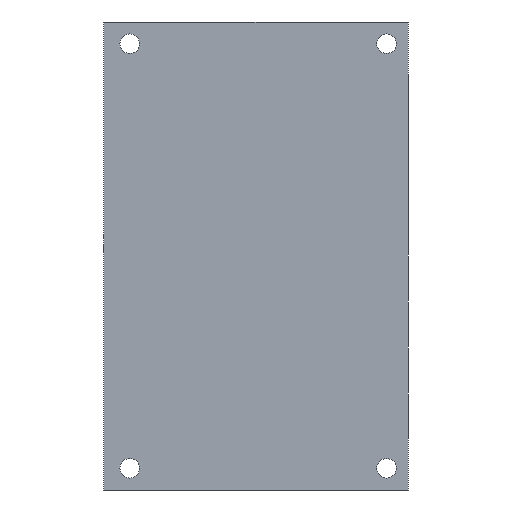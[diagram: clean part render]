
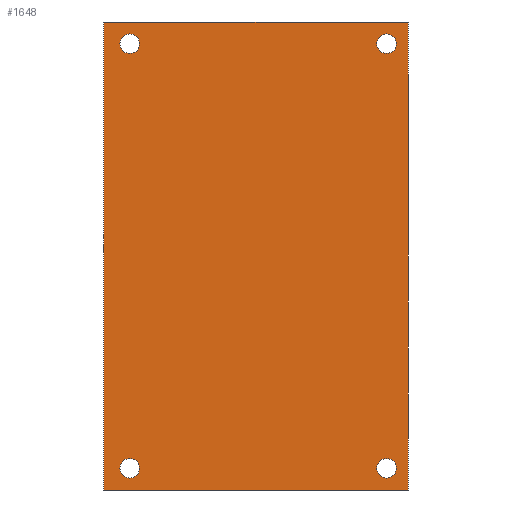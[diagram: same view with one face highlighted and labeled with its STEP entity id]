
A CAD part, front view. The second image highlights one B-rep face of the part: STEP entity #1648.
In plain terms, the highlighted planar face has unit normal (0, -1, 0) as drawn and (0, 0, 1) by its records, which use the part's own axes.
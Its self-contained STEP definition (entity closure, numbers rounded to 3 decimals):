
#1648=ADVANCED_FACE('',(#3500,#3501,#3502,#3503,#3504),#3505,.T.);
#3500=FACE_BOUND('',#5703,.T.);
#3501=FACE_BOUND('',#5704,.T.);
#3502=FACE_BOUND('',#5705,.T.);
#3503=FACE_BOUND('',#5706,.T.);
#3504=FACE_OUTER_BOUND('',#5707,.T.);
#3505=PLANE('',#5708);
#5703=EDGE_LOOP('',(#11939));
#5704=EDGE_LOOP('',(#11940));
#5705=EDGE_LOOP('',(#11941));
#5706=EDGE_LOOP('',(#11942));
#5707=EDGE_LOOP('',(#11943,#11944,#11945,#11946));
#5708=AXIS2_PLACEMENT_3D('',#11947,#11948,#11949);
#11939=ORIENTED_EDGE('',*,*,#15906,.F.);
#11940=ORIENTED_EDGE('',*,*,#15905,.T.);
#11941=ORIENTED_EDGE('',*,*,#15907,.F.);
#11942=ORIENTED_EDGE('',*,*,#15884,.T.);
#11943=ORIENTED_EDGE('',*,*,#15908,.T.);
#11944=ORIENTED_EDGE('',*,*,#15898,.T.);
#11945=ORIENTED_EDGE('',*,*,#15902,.T.);
#11946=ORIENTED_EDGE('',*,*,#15880,.T.);
#11947=CARTESIAN_POINT('',(-53.75,-35.0,25.889));
#11948=DIRECTION('',(0.0,0.0,1.0));
#11949=DIRECTION('',(1.0,0.0,0.0));
#15880=EDGE_CURVE('',#19515,#19513,#19516,.T.);
#15884=EDGE_CURVE('',#19522,#19522,#19523,.T.);
#15898=EDGE_CURVE('',#19549,#19547,#19550,.T.);
#15902=EDGE_CURVE('',#19547,#19515,#19556,.T.);
#15905=EDGE_CURVE('',#19561,#19561,#19562,.T.);
#15906=EDGE_CURVE('',#19563,#19563,#19564,.T.);
#15907=EDGE_CURVE('',#19565,#19565,#19566,.T.);
#15908=EDGE_CURVE('',#19513,#19549,#19567,.T.);
#19513=VERTEX_POINT('',#25370);
#19515=VERTEX_POINT('',#25373);
#19516=LINE('',#25374,#25375);
#19522=VERTEX_POINT('',#25382);
#19523=CIRCLE('',#25383,2.25);
#19547=VERTEX_POINT('',#25410);
#19549=VERTEX_POINT('',#25413);
#19550=LINE('',#25414,#25415);
#19556=LINE('',#25422,#25423);
#19561=VERTEX_POINT('',#25428);
#19562=CIRCLE('',#25429,2.25);
#19563=VERTEX_POINT('',#25430);
#19564=CIRCLE('',#25431,2.25);
#19565=VERTEX_POINT('',#25432);
#19566=CIRCLE('',#25433,2.25);
#19567=LINE('',#25434,#25435);
#25370=CARTESIAN_POINT('',(-53.75,35.0,25.889));
#25373=CARTESIAN_POINT('',(53.75,35.0,25.889));
#25374=CARTESIAN_POINT('',(53.75,35.0,25.889));
#25375=VECTOR('',#29561,1.0);
#25382=CARTESIAN_POINT('',(-51.0,-29.0,25.889));
#25383=AXIS2_PLACEMENT_3D('',#29569,#29570,#29571);
#25410=CARTESIAN_POINT('',(53.75,-35.0,25.889));
#25413=CARTESIAN_POINT('',(-53.75,-35.0,25.889));
#25414=CARTESIAN_POINT('',(-53.75,-35.0,25.889));
#25415=VECTOR('',#29603,1.0);
#25422=CARTESIAN_POINT('',(53.75,-35.0,25.889));
#25423=VECTOR('',#29611,1.0);
#25428=CARTESIAN_POINT('',(-51.0,30.0,25.889));
#25429=AXIS2_PLACEMENT_3D('',#29618,#29619,#29620);
#25430=CARTESIAN_POINT('',(51.0,30.0,25.889));
#25431=AXIS2_PLACEMENT_3D('',#29621,#29622,#29623);
#25432=CARTESIAN_POINT('',(51.0,-29.0,25.889));
#25433=AXIS2_PLACEMENT_3D('',#29624,#29625,#29626);
#25434=CARTESIAN_POINT('',(-53.75,35.0,25.889));
#25435=VECTOR('',#29627,1.0);
#29561=DIRECTION('',(-1.0,0.0,0.0));
#29569=CARTESIAN_POINT('',(-48.75,-29.0,25.889));
#29570=DIRECTION('',(0.0,0.0,-1.0));
#29571=DIRECTION('',(-1.0,0.0,0.0));
#29603=DIRECTION('',(1.0,0.0,0.0));
#29611=DIRECTION('',(0.0,1.0,0.0));
#29618=CARTESIAN_POINT('',(-48.75,30.0,25.889));
#29619=DIRECTION('',(0.0,0.0,-1.0));
#29620=DIRECTION('',(-1.0,0.0,0.0));
#29621=CARTESIAN_POINT('',(48.75,30.0,25.889));
#29622=DIRECTION('',(0.0,0.0,1.0));
#29623=DIRECTION('',(1.0,0.0,0.0));
#29624=CARTESIAN_POINT('',(48.75,-29.0,25.889));
#29625=DIRECTION('',(0.0,0.0,1.0));
#29626=DIRECTION('',(1.0,0.0,0.0));
#29627=DIRECTION('',(0.0,-1.0,0.0));
